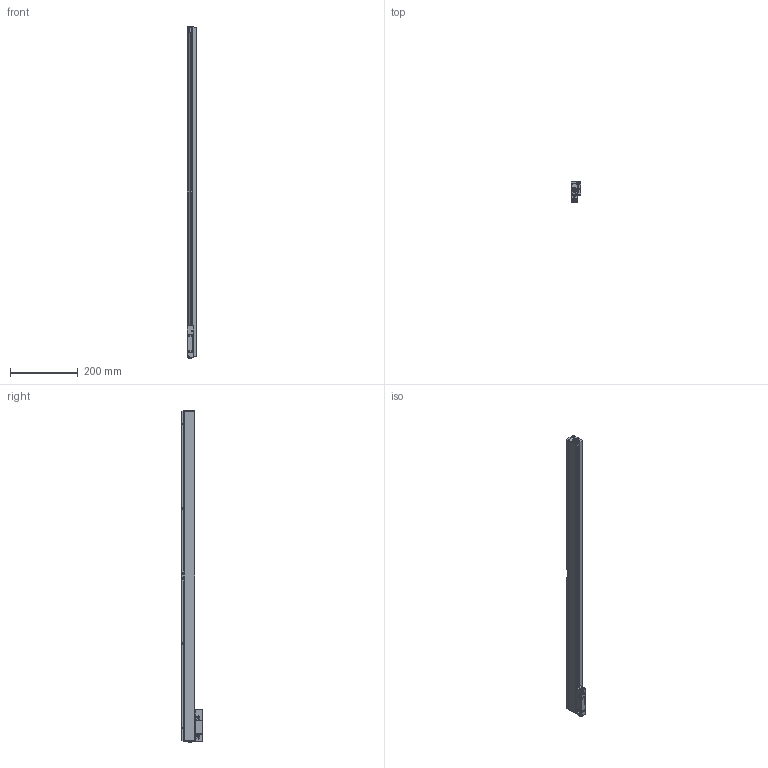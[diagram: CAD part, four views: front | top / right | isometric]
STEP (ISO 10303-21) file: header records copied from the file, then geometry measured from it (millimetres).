
FILE_DESCRIPTION(('Creo Elements/Direct Modeling STEP Export'),'2;1');
FILE_NAME('SV-870.stp','2013-11-22T 9:53:40',(''),(''),'Creo Elements/Direct Modeling STEP processor for AP214 (Solid Model)','Creo Elements/Direct Modeling 18.1A 09-Jun-2012 (C) Parametric Technology GmbH','');
FILE_SCHEMA(('AUTOMOTIVE_DESIGN { 1 0 10303 214 1 1 1 1 }'));
Length unit declared in the file: millimetre
Products named in the file (4): SOPORTE_SV.870; PERFIL_SV.870; CABEZA_S; REGLA_SV_870
Assembly tree (3 placements, depth 2):
  REGLA_SV_870
    CABEZA_S
    PERFIL_SV.870
    SOPORTE_SV.870
Bounding box: 28 x 60.21 x 982 mm (x, y, z)
Volume: 1277097.3 mm3; surface area: 441543.3 mm2
Topology: 15 solids, 27 shells, 1415 faces, 3791 edges, 2429 vertices
Faces by surface type: cylinder 599, plane 555, cone 191, torus 56, sphere 12, bspline 2
Entity records: 48456 total; most frequent: CARTESIAN_POINT 9791, ORIENTED_EDGE 7586, DIRECTION 7008, EDGE_CURVE 3753, AXIS2_PLACEMENT_3D 2505, VERTEX_POINT 2429, VECTOR 1998, LINE 1998
